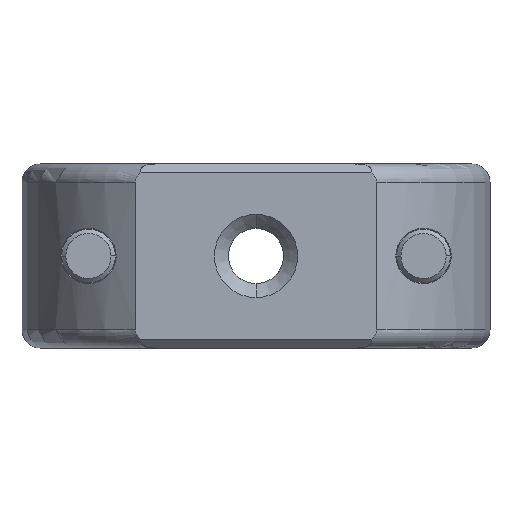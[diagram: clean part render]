
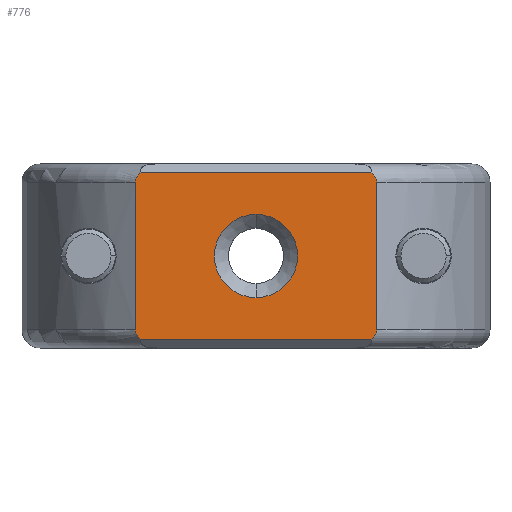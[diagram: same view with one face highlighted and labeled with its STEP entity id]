
A CAD part, front view. The second image highlights one B-rep face of the part: STEP entity #776.
In plain terms, the highlighted planar face has unit normal (0, -1, 0).
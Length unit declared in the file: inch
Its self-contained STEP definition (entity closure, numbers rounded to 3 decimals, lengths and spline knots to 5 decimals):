
#6 = CARTESIAN_POINT ( 'NONE',  ( -0.2839, -0.47244, 0.38976 ) ) ;
#8 = CARTESIAN_POINT ( 'NONE',  ( -0.2839, -0.47244, 0.43307 ) ) ;
#121 = CARTESIAN_POINT ( 'NONE',  ( -0.27382, -0.47244, 0.02257 ) ) ;
#157 = DIRECTION ( 'NONE',  ( 1., 0., 0. ) ) ;
#245 = DIRECTION ( 'NONE',  ( 0., 0., -1. ) ) ;
#315 = CARTESIAN_POINT ( 'NONE',  ( 0.2839, -0.47244, 0.04331 ) ) ;
#389 = CARTESIAN_POINT ( 'NONE',  ( -0.2839, -0.47244, 0.38976 ) ) ;
#519 = CARTESIAN_POINT ( 'NONE',  ( -0.27382, -0.47244, 0.4105 ) ) ;
#524 = VERTEX_POINT ( 'NONE', #389 ) ;
#530 = B_SPLINE_CURVE_WITH_KNOTS ( 'NONE', 3,
 ( #537, #1630, #1300, #3534, #3572, #1920 ),
 .UNSPECIFIED., .F., .F.,
 ( 4, 2, 4 ),
 ( 0., 0.00036, 0.00072 ),
 .UNSPECIFIED. ) ;
#537 = CARTESIAN_POINT ( 'NONE',  ( 0.27004, -0.47244, 0.41339 ) ) ;
#603 = EDGE_CURVE ( 'NONE', #1164, #2031, #1088, .T. ) ;
#621 = VERTEX_POINT ( 'NONE', #2980 ) ;
#624 = EDGE_CURVE ( 'NONE', #524, #1455, #2331, .T. ) ;
#650 = DIRECTION ( 'NONE',  ( 0., 0., -1. ) ) ;
#676 = ORIENTED_EDGE ( 'NONE', *, *, #2939, .F. ) ;
#776 = ADVANCED_FACE ( 'NONE', ( #1613, #3000 ), #2720, .T. ) ;
#800 = CARTESIAN_POINT ( 'NONE',  ( -0.28231, -0.47244, 0.39915 ) ) ;
#866 = DIRECTION ( 'NONE',  ( 0., 0., -1. ) ) ;
#894 = ORIENTED_EDGE ( 'NONE', *, *, #624, .F. ) ;
#962 = CIRCLE ( 'NONE', #3503, 0.09771 ) ;
#976 = CARTESIAN_POINT ( 'NONE',  ( 0.2839, -0.47244, 0.01969 ) ) ;
#1021 = AXIS2_PLACEMENT_3D ( 'NONE', #1054, #2751, #245 ) ;
#1028 = VECTOR ( 'NONE', #157, 39.37008 ) ;
#1036 = DIRECTION ( 'NONE',  ( 0., -1., 0. ) ) ;
#1042 = CARTESIAN_POINT ( 'NONE',  ( -0.27004, -0.47244, 0.41339 ) ) ;
#1054 = CARTESIAN_POINT ( 'NONE',  ( 0.2839, -0.47244, 0.43307 ) ) ;
#1088 = LINE ( 'NONE', #3516, #2979 ) ;
#1102 = CARTESIAN_POINT ( 'NONE',  ( -0.2839, -0.47244, 0.39455 ) ) ;
#1164 = VERTEX_POINT ( 'NONE', #3240 ) ;
#1214 = CARTESIAN_POINT ( 'NONE',  ( 0.2839, -0.47244, 0.04331 ) ) ;
#1219 = CARTESIAN_POINT ( 'NONE',  ( -0.2839, -0.47244, 0.04331 ) ) ;
#1274 = CARTESIAN_POINT ( 'NONE',  ( -0.2839, -0.47244, 0.04331 ) ) ;
#1300 = CARTESIAN_POINT ( 'NONE',  ( 0.27723, -0.47244, 0.40712 ) ) ;
#1313 = VERTEX_POINT ( 'NONE', #1219 ) ;
#1319 = CARTESIAN_POINT ( 'NONE',  ( 0.2839, -0.47244, 0.03852 ) ) ;
#1322 = VERTEX_POINT ( 'NONE', #2563 ) ;
#1349 = DIRECTION ( 'NONE',  ( 0., 0., -1. ) ) ;
#1365 = CIRCLE ( 'NONE', #2926, 0.09771 ) ;
#1404 = EDGE_CURVE ( 'NONE', #2504, #1455, #1615, .T. ) ;
#1455 = VERTEX_POINT ( 'NONE', #1042 ) ;
#1468 = DIRECTION ( 'NONE',  ( 0., -1., 0. ) ) ;
#1546 = EDGE_CURVE ( 'NONE', #621, #3366, #1365, .T. ) ;
#1613 = FACE_BOUND ( 'NONE', #3304, .T. ) ;
#1615 = LINE ( 'NONE', #2722, #2233 ) ;
#1630 = CARTESIAN_POINT ( 'NONE',  ( 0.27382, -0.47244, 0.4105 ) ) ;
#1793 = EDGE_CURVE ( 'NONE', #3366, #621, #962, .T. ) ;
#1806 = CARTESIAN_POINT ( 'NONE',  ( -0.2839, -0.47244, 0.03852 ) ) ;
#1823 = CARTESIAN_POINT ( 'NONE',  ( -0.27723, -0.47244, 0.02595 ) ) ;
#1844 = VERTEX_POINT ( 'NONE', #1885 ) ;
#1846 = CARTESIAN_POINT ( 'NONE',  ( -0.27004, -0.47244, 0.01969 ) ) ;
#1856 = CARTESIAN_POINT ( 'NONE',  ( 0.28231, -0.47244, 0.03392 ) ) ;
#1868 = CARTESIAN_POINT ( 'NONE',  ( -0.27004, -0.47244, 0.41339 ) ) ;
#1885 = CARTESIAN_POINT ( 'NONE',  ( 0.27004, -0.47244, 0.01969 ) ) ;
#1920 = CARTESIAN_POINT ( 'NONE',  ( 0.2839, -0.47244, 0.38976 ) ) ;
#1982 = EDGE_CURVE ( 'NONE', #524, #1313, #2499, .T. ) ;
#1999 = ORIENTED_EDGE ( 'NONE', *, *, #603, .F. ) ;
#2031 = VERTEX_POINT ( 'NONE', #315 ) ;
#2169 = CARTESIAN_POINT ( 'NONE',  ( 0.27382, -0.47244, 0.02257 ) ) ;
#2233 = VECTOR ( 'NONE', #3003, 39.37008 ) ;
#2331 = B_SPLINE_CURVE_WITH_KNOTS ( 'NONE', 3,
 ( #6, #1102, #800, #3241, #519, #1868 ),
 .UNSPECIFIED., .F., .F.,
 ( 4, 2, 4 ),
 ( 0., 0.00036, 0.00072 ),
 .UNSPECIFIED. ) ;
#2499 = LINE ( 'NONE', #8, #3393 ) ;
#2504 = VERTEX_POINT ( 'NONE', #3192 ) ;
#2540 = ORIENTED_EDGE ( 'NONE', *, *, #1793, .F. ) ;
#2563 = CARTESIAN_POINT ( 'NONE',  ( -0.27004, -0.47244, 0.01969 ) ) ;
#2624 = EDGE_LOOP ( 'NONE', ( #2819, #3407, #894, #3570, #2884, #2762, #676, #1999 ) ) ;
#2675 = B_SPLINE_CURVE_WITH_KNOTS ( 'NONE', 3,
 ( #1846, #121, #1823, #3175, #1806, #1274 ),
 .UNSPECIFIED., .F., .F.,
 ( 4, 2, 4 ),
 ( 0., 0.00036, 0.00072 ),
 .UNSPECIFIED. ) ;
#2690 = CARTESIAN_POINT ( 'NONE',  ( 0., -0.47244, 0.11882 ) ) ;
#2719 = CARTESIAN_POINT ( 'NONE',  ( 0.27004, -0.47244, 0.01969 ) ) ;
#2720 = PLANE ( 'NONE',  #1021 ) ;
#2722 = CARTESIAN_POINT ( 'NONE',  ( 0.2839, -0.47244, 0.41339 ) ) ;
#2751 = DIRECTION ( 'NONE',  ( 0., -1., 0. ) ) ;
#2762 = ORIENTED_EDGE ( 'NONE', *, *, #3231, .T. ) ;
#2819 = ORIENTED_EDGE ( 'NONE', *, *, #3009, .F. ) ;
#2884 = ORIENTED_EDGE ( 'NONE', *, *, #3266, .F. ) ;
#2926 = AXIS2_PLACEMENT_3D ( 'NONE', #3367, #1468, #650 ) ;
#2935 = B_SPLINE_CURVE_WITH_KNOTS ( 'NONE', 3,
 ( #1214, #1319, #1856, #3245, #2169, #2719 ),
 .UNSPECIFIED., .F., .F.,
 ( 4, 2, 4 ),
 ( 0., 0.00036, 0.00072 ),
 .UNSPECIFIED. ) ;
#2939 = EDGE_CURVE ( 'NONE', #2031, #1844, #2935, .T. ) ;
#2941 = LINE ( 'NONE', #976, #1028 ) ;
#2979 = VECTOR ( 'NONE', #3274, 39.37008 ) ;
#2980 = CARTESIAN_POINT ( 'NONE',  ( 0., -0.47244, 0.31425 ) ) ;
#3000 = FACE_OUTER_BOUND ( 'NONE', #2624, .T. ) ;
#3001 = ORIENTED_EDGE ( 'NONE', *, *, #1546, .F. ) ;
#3003 = DIRECTION ( 'NONE',  ( -1., 0., 0. ) ) ;
#3009 = EDGE_CURVE ( 'NONE', #2504, #1164, #530, .T. ) ;
#3132 = CARTESIAN_POINT ( 'NONE',  ( 0., -0.47244, 0.21654 ) ) ;
#3175 = CARTESIAN_POINT ( 'NONE',  ( -0.2823, -0.47244, 0.03391 ) ) ;
#3192 = CARTESIAN_POINT ( 'NONE',  ( 0.27004, -0.47244, 0.41339 ) ) ;
#3231 = EDGE_CURVE ( 'NONE', #1322, #1844, #2941, .T. ) ;
#3240 = CARTESIAN_POINT ( 'NONE',  ( 0.2839, -0.47244, 0.38976 ) ) ;
#3241 = CARTESIAN_POINT ( 'NONE',  ( -0.27721, -0.47244, 0.40715 ) ) ;
#3245 = CARTESIAN_POINT ( 'NONE',  ( 0.27721, -0.47244, 0.02592 ) ) ;
#3266 = EDGE_CURVE ( 'NONE', #1322, #1313, #2675, .T. ) ;
#3274 = DIRECTION ( 'NONE',  ( 0., 0., -1. ) ) ;
#3304 = EDGE_LOOP ( 'NONE', ( #3001, #2540 ) ) ;
#3366 = VERTEX_POINT ( 'NONE', #2690 ) ;
#3367 = CARTESIAN_POINT ( 'NONE',  ( 0., -0.47244, 0.21654 ) ) ;
#3393 = VECTOR ( 'NONE', #866, 39.37008 ) ;
#3407 = ORIENTED_EDGE ( 'NONE', *, *, #1404, .T. ) ;
#3503 = AXIS2_PLACEMENT_3D ( 'NONE', #3132, #1036, #1349 ) ;
#3516 = CARTESIAN_POINT ( 'NONE',  ( 0.2839, -0.47244, 0.43307 ) ) ;
#3534 = CARTESIAN_POINT ( 'NONE',  ( 0.2823, -0.47244, 0.39916 ) ) ;
#3570 = ORIENTED_EDGE ( 'NONE', *, *, #1982, .T. ) ;
#3572 = CARTESIAN_POINT ( 'NONE',  ( 0.2839, -0.47244, 0.39455 ) ) ;
